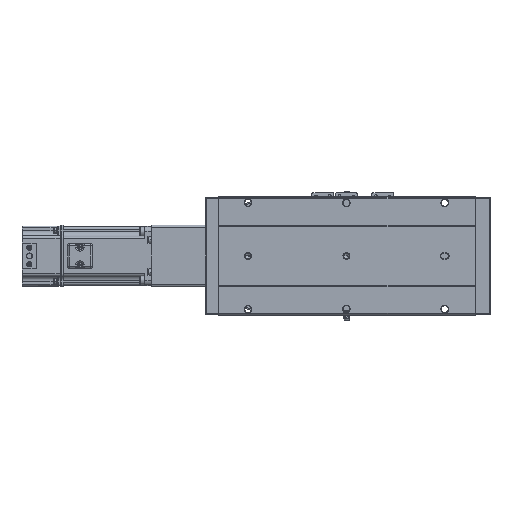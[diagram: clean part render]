
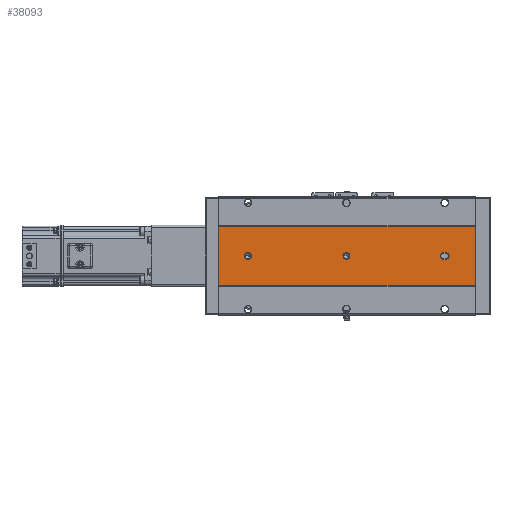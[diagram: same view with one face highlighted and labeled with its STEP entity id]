
A CAD part, front view. The second image highlights one B-rep face of the part: STEP entity #38093.
In plain terms, the highlighted planar face has unit normal (0, -1, 0).
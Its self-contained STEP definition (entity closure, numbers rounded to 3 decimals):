
#376 = CARTESIAN_POINT ( 'NONE',  ( -69.892, -52.848, 261. ) ) ;
#6396 = CARTESIAN_POINT ( 'NONE',  ( -9.892, -52.848, 0. ) ) ;
#6756 = DIRECTION ( 'NONE',  ( 0., 1., 0. ) ) ;
#6829 = DIRECTION ( 'NONE',  ( 0., 0., -1. ) ) ;
#6844 = VECTOR ( 'NONE', #66664, 1000. ) ;
#7023 = ORIENTED_EDGE ( 'NONE', *, *, #67198, .T. ) ;
#7125 = AXIS2_PLACEMENT_3D ( 'NONE', #16278, #80548, #34907 ) ;
#7678 = CARTESIAN_POINT ( 'NONE',  ( -39.892, -52.848, 134.5 ) ) ;
#8163 = CARTESIAN_POINT ( 'NONE',  ( -39.892, -52.848, 231. ) ) ;
#8279 = CARTESIAN_POINT ( 'NONE',  ( -39.892, -52.848, 234.5 ) ) ;
#8783 = EDGE_CURVE ( 'NONE', #42176, #76131, #52158, .T. ) ;
#9199 = FACE_BOUND ( 'NONE', #49087, .T. ) ;
#11054 = VERTEX_POINT ( 'NONE', #54438 ) ;
#11224 = FACE_BOUND ( 'NONE', #19895, .T. ) ;
#12174 = ORIENTED_EDGE ( 'NONE', *, *, #75171, .T. ) ;
#13502 = DIRECTION ( 'NONE',  ( 0., 0., -1. ) ) ;
#14783 = DIRECTION ( 'NONE',  ( 1., 0., 0. ) ) ;
#15039 = ORIENTED_EDGE ( 'NONE', *, *, #8783, .T. ) ;
#15412 = EDGE_CURVE ( 'NONE', #18252, #30344, #71377, .T. ) ;
#16068 = CARTESIAN_POINT ( 'NONE',  ( -9.892, -52.848, 261. ) ) ;
#16278 = CARTESIAN_POINT ( 'NONE',  ( -39.892, -52.848, 32. ) ) ;
#16385 = AXIS2_PLACEMENT_3D ( 'NONE', #36463, #56526, #82120 ) ;
#17483 = DIRECTION ( 'NONE',  ( 0., 0., -1. ) ) ;
#18252 = VERTEX_POINT ( 'NONE', #78394 ) ;
#18264 = FACE_BOUND ( 'NONE', #77041, .T. ) ;
#18266 = EDGE_CURVE ( 'NONE', #38751, #18252, #50907, .T. ) ;
#18486 = ORIENTED_EDGE ( 'NONE', *, *, #15412, .T. ) ;
#19469 = DIRECTION ( 'NONE',  ( 0., 1., 0. ) ) ;
#19517 = CARTESIAN_POINT ( 'NONE',  ( -43.392, -52.848, 30. ) ) ;
#19754 = CARTESIAN_POINT ( 'NONE',  ( -39.892, -52.848, 231. ) ) ;
#19895 = EDGE_LOOP ( 'NONE', ( #55341, #12174, #68961, #7023, #33150 ) ) ;
#21009 = ORIENTED_EDGE ( 'NONE', *, *, #47344, .T. ) ;
#22606 = VERTEX_POINT ( 'NONE', #19517 ) ;
#24224 = VERTEX_POINT ( 'NONE', #28171 ) ;
#25396 = DIRECTION ( 'NONE',  ( 0., 0., 1. ) ) ;
#26398 = AXIS2_PLACEMENT_3D ( 'NONE', #77209, #6756, #25396 ) ;
#27103 = CIRCLE ( 'NONE', #26398, 3.5 ) ;
#28158 = EDGE_CURVE ( 'NONE', #76131, #42176, #72221, .T. ) ;
#28171 = CARTESIAN_POINT ( 'NONE',  ( -36.392, -52.848, 32. ) ) ;
#29290 = CIRCLE ( 'NONE', #68823, 3.5 ) ;
#30344 = VERTEX_POINT ( 'NONE', #6396 ) ;
#31491 = ORIENTED_EDGE ( 'NONE', *, *, #28158, .T. ) ;
#33150 = ORIENTED_EDGE ( 'NONE', *, *, #67176, .T. ) ;
#34392 = AXIS2_PLACEMENT_3D ( 'NONE', #19754, #19469, #77822 ) ;
#34524 = ORIENTED_EDGE ( 'NONE', *, *, #67255, .F. ) ;
#34646 = DIRECTION ( 'NONE',  ( 0., 1., 0. ) ) ;
#34907 = DIRECTION ( 'NONE',  ( 0., 0., 1. ) ) ;
#36463 = CARTESIAN_POINT ( 'NONE',  ( -39.892, -52.848, 131. ) ) ;
#38065 = VECTOR ( 'NONE', #13502, 1000. ) ;
#38093 = ADVANCED_FACE ( 'NONE', ( #11224, #18264, #9199, #78776 ), #38936, .F. ) ;
#38282 = VERTEX_POINT ( 'NONE', #16068 ) ;
#38751 = VERTEX_POINT ( 'NONE', #42603 ) ;
#38936 = PLANE ( 'NONE',  #66141 ) ;
#39628 = DIRECTION ( 'NONE',  ( 1., 0., 0. ) ) ;
#42176 = VERTEX_POINT ( 'NONE', #43801 ) ;
#42603 = CARTESIAN_POINT ( 'NONE',  ( -69.892, -52.848, 261. ) ) ;
#43801 = CARTESIAN_POINT ( 'NONE',  ( -39.892, -52.848, 127.5 ) ) ;
#44111 = VERTEX_POINT ( 'NONE', #59218 ) ;
#45270 = CIRCLE ( 'NONE', #7125, 3.5 ) ;
#45457 = CARTESIAN_POINT ( 'NONE',  ( -69.892, -52.848, 261. ) ) ;
#46766 = EDGE_LOOP ( 'NONE', ( #18486, #34524, #70732, #66066 ) ) ;
#47344 = EDGE_CURVE ( 'NONE', #82612, #64967, #29290, .T. ) ;
#47611 = CARTESIAN_POINT ( 'NONE',  ( -39.892, -52.848, 227.5 ) ) ;
#49087 = EDGE_LOOP ( 'NONE', ( #80337, #21009 ) ) ;
#49166 = LINE ( 'NONE', #83401, #38065 ) ;
#49509 = AXIS2_PLACEMENT_3D ( 'NONE', #64826, #77792, #65109 ) ;
#49636 = CARTESIAN_POINT ( 'NONE',  ( -36.392, -52.848, 261. ) ) ;
#50907 = LINE ( 'NONE', #45457, #52926 ) ;
#52158 = CIRCLE ( 'NONE', #49509, 3.5 ) ;
#52926 = VECTOR ( 'NONE', #6829, 1000. ) ;
#53309 = DIRECTION ( 'NONE',  ( 0., 0., 1. ) ) ;
#53986 = CARTESIAN_POINT ( 'NONE',  ( -69.892, -52.848, 0. ) ) ;
#54438 = CARTESIAN_POINT ( 'NONE',  ( -43.392, -52.848, 32. ) ) ;
#55106 = EDGE_CURVE ( 'NONE', #38751, #38282, #70880, .T. ) ;
#55251 = VERTEX_POINT ( 'NONE', #73700 ) ;
#55341 = ORIENTED_EDGE ( 'NONE', *, *, #74068, .T. ) ;
#56008 = CIRCLE ( 'NONE', #34392, 3.5 ) ;
#56206 = EDGE_CURVE ( 'NONE', #24224, #55251, #74143, .T. ) ;
#56320 = VECTOR ( 'NONE', #14783, 1000. ) ;
#56526 = DIRECTION ( 'NONE',  ( 0., 1., 0. ) ) ;
#57326 = EDGE_CURVE ( 'NONE', #64967, #82612, #56008, .T. ) ;
#57529 = CARTESIAN_POINT ( 'NONE',  ( -39.892, -52.848, 30. ) ) ;
#57790 = DIRECTION ( 'NONE',  ( 0., 0., 1. ) ) ;
#59218 = CARTESIAN_POINT ( 'NONE',  ( -39.892, -52.848, 26.5 ) ) ;
#59511 = DIRECTION ( 'NONE',  ( 0., 0., 1. ) ) ;
#61357 = CIRCLE ( 'NONE', #76004, 3.5 ) ;
#64826 = CARTESIAN_POINT ( 'NONE',  ( -39.892, -52.848, 131. ) ) ;
#64967 = VERTEX_POINT ( 'NONE', #47611 ) ;
#65109 = DIRECTION ( 'NONE',  ( 0., 0., 1. ) ) ;
#66066 = ORIENTED_EDGE ( 'NONE', *, *, #18266, .T. ) ;
#66073 = VECTOR ( 'NONE', #17483, 1000. ) ;
#66141 = AXIS2_PLACEMENT_3D ( 'NONE', #376, #66274, #59511 ) ;
#66274 = DIRECTION ( 'NONE',  ( 0., 1., 0. ) ) ;
#66664 = DIRECTION ( 'NONE',  ( 0., 0., 1. ) ) ;
#67176 = EDGE_CURVE ( 'NONE', #44111, #22606, #61357, .T. ) ;
#67198 = EDGE_CURVE ( 'NONE', #55251, #44111, #27103, .T. ) ;
#67255 = EDGE_CURVE ( 'NONE', #38282, #30344, #49166, .T. ) ;
#68353 = LINE ( 'NONE', #72845, #6844 ) ;
#68823 = AXIS2_PLACEMENT_3D ( 'NONE', #8163, #34646, #53309 ) ;
#68961 = ORIENTED_EDGE ( 'NONE', *, *, #56206, .T. ) ;
#70732 = ORIENTED_EDGE ( 'NONE', *, *, #55106, .F. ) ;
#70880 = LINE ( 'NONE', #78254, #81987 ) ;
#70983 = DIRECTION ( 'NONE',  ( 0., 1., 0. ) ) ;
#71377 = LINE ( 'NONE', #53986, #56320 ) ;
#72221 = CIRCLE ( 'NONE', #16385, 3.5 ) ;
#72845 = CARTESIAN_POINT ( 'NONE',  ( -43.392, -52.848, 261. ) ) ;
#73700 = CARTESIAN_POINT ( 'NONE',  ( -36.392, -52.848, 30. ) ) ;
#74068 = EDGE_CURVE ( 'NONE', #22606, #11054, #68353, .T. ) ;
#74143 = LINE ( 'NONE', #49636, #66073 ) ;
#75171 = EDGE_CURVE ( 'NONE', #11054, #24224, #45270, .T. ) ;
#76004 = AXIS2_PLACEMENT_3D ( 'NONE', #57529, #70983, #57790 ) ;
#76131 = VERTEX_POINT ( 'NONE', #7678 ) ;
#77041 = EDGE_LOOP ( 'NONE', ( #15039, #31491 ) ) ;
#77209 = CARTESIAN_POINT ( 'NONE',  ( -39.892, -52.848, 30. ) ) ;
#77792 = DIRECTION ( 'NONE',  ( 0., 1., 0. ) ) ;
#77822 = DIRECTION ( 'NONE',  ( 0., 0., 1. ) ) ;
#78254 = CARTESIAN_POINT ( 'NONE',  ( -69.892, -52.848, 261. ) ) ;
#78394 = CARTESIAN_POINT ( 'NONE',  ( -69.892, -52.848, 0. ) ) ;
#78776 = FACE_OUTER_BOUND ( 'NONE', #46766, .T. ) ;
#80337 = ORIENTED_EDGE ( 'NONE', *, *, #57326, .T. ) ;
#80548 = DIRECTION ( 'NONE',  ( 0., 1., 0. ) ) ;
#81987 = VECTOR ( 'NONE', #39628, 1000. ) ;
#82120 = DIRECTION ( 'NONE',  ( 0., 0., 1. ) ) ;
#82612 = VERTEX_POINT ( 'NONE', #8279 ) ;
#83401 = CARTESIAN_POINT ( 'NONE',  ( -9.892, -52.848, 261. ) ) ;
